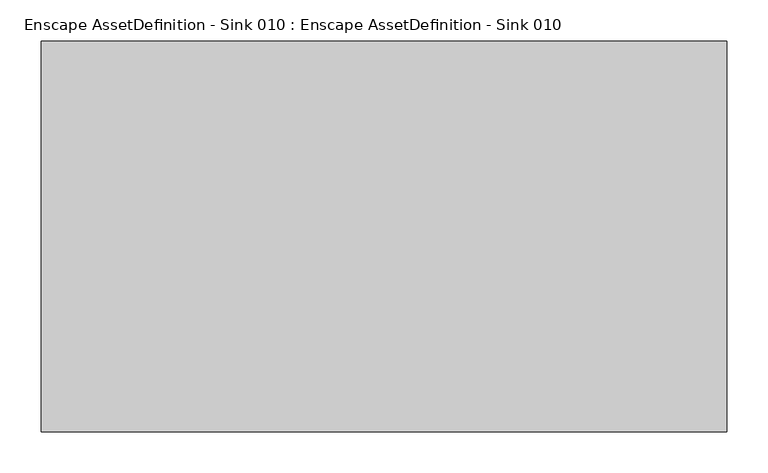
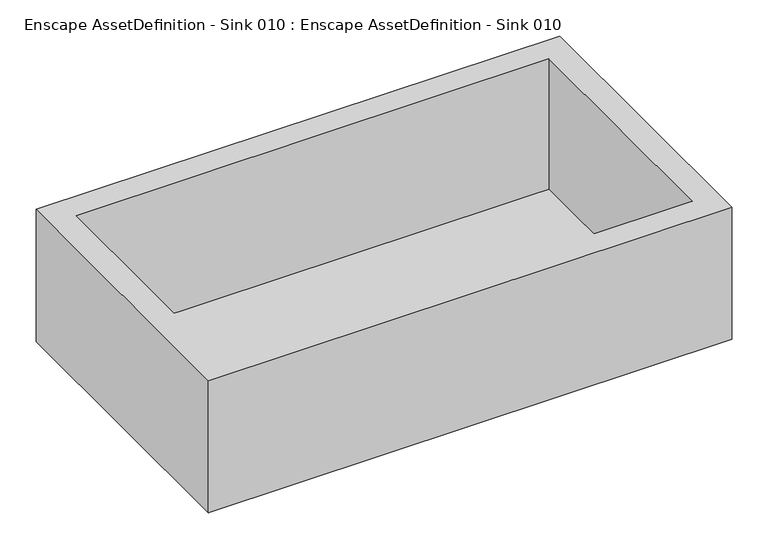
"""IFC4 building model written with IfcOpenShell, lengths in millimetres: geographic element geometry, Enscape AssetDefinition - Sink 010 : Enscape AssetDefinition - Sink 010."""

import ifcopenshell
import ifcopenshell.guid

model = None  # the IFC model being written
_history = None  # IfcOwnerHistory: only IFC2X3 demands one
_inside = {}  # id of a spatial element -> (the spatial element, [elements in it])
_under = {}  # id of a project, library or spatial element -> (it, [spatial elements below it])
_declared = {}  # id of a project -> (the project, [libraries it declares])
_typed = {}  # id of a type object -> (the type object, [elements of that type])
_made_of = {}  # id of a material, layer set ... -> (it, [elements and type objects made of it])


def new_model(schema):
    """Start an empty IFC model of exactly this schema.

    Asked for "IFC4X3", IfcOpenShell would pick the latest addendum, in which some entities
    have other attributes; the version numbers below select the first issue.
    IFC2X3 requires an IfcOwnerHistory on every rooted entity: one is made here for all.
    """
    global model, _history
    if schema == "IFC4X3":
        model = ifcopenshell.file(schema_version=(4, 3, 0, 0))
    else:
        model = ifcopenshell.file(schema=schema)
    _inside.clear()
    _under.clear()
    _declared.clear()
    _typed.clear()
    _made_of.clear()
    _history = None
    if model.schema == "IFC2X3":
        org = make("IfcOrganization", Name="unknown")
        user = make(
            "IfcPersonAndOrganization",
            ThePerson=make("IfcPerson", FamilyName="unknown"),
            TheOrganization=org,
        )
        app = make(
            "IfcApplication",
            ApplicationDeveloper=org,
            Version="unknown",
            ApplicationFullName="unknown",
            ApplicationIdentifier="unknown",
        )
        _history = make(
            "IfcOwnerHistory",
            OwningUser=user,
            OwningApplication=app,
            ChangeAction="ADDED",
            CreationDate=0,
        )
    return model


def make(cls, **values):
    """One entity of the class cls with the attributes given. An attribute that is None is left unset."""
    return model.create_entity(
        cls, **{name: value for name, value in values.items() if value is not None}
    )


def rooted(cls, **values):
    """An entity with a GlobalId (a new one), such as an element, a storey or a relation."""
    return make(cls, GlobalId=ifcopenshell.guid.new(), OwnerHistory=_history, **values)


def si_unit(unit_type, name, prefix=None):
    """IfcSIUnit, for example si_unit("LENGTHUNIT", "METRE", prefix="MILLI")."""
    return make("IfcSIUnit", UnitType=unit_type, Prefix=prefix, Name=name)


def assignment(units):
    """IfcUnitAssignment: the units of a project."""
    return None if units is None else make("IfcUnitAssignment", Units=units)


def point(xyz):
    """IfcCartesianPoint."""
    return None if xyz is None else make("IfcCartesianPoint", Coordinates=xyz)


def direction(xyz):
    """IfcDirection."""
    return None if xyz is None else make("IfcDirection", DirectionRatios=xyz)


def frame(location, z_axis=None, x_axis=None):
    """IfcAxis2Placement3D, a coordinate frame: its origin and axes. An axis left out is left unset."""
    return make(
        "IfcAxis2Placement3D",
        Location=point(location),
        Axis=direction(z_axis),
        RefDirection=direction(x_axis),
    )


def origin():
    """The frame at (0, 0, 0) with its axes left unset."""
    return frame((0.0, 0.0, 0.0))


def place(relative_to, where):
    """IfcLocalPlacement: puts the frame where relative to a parent placement (None: the world)."""
    return make(
        "IfcLocalPlacement", PlacementRelTo=relative_to, RelativePlacement=where
    )


def context(
    kind, dimensions, precision=None, world=None, true_north=None, identifier=None
):
    """IfcGeometricRepresentationContext, for example the 3D "Model" context."""
    return make(
        "IfcGeometricRepresentationContext",
        ContextIdentifier=identifier,
        ContextType=kind,
        CoordinateSpaceDimension=dimensions,
        Precision=precision,
        WorldCoordinateSystem=world,
        TrueNorth=true_north,
    )


def project(units=None, contexts=None):
    """IfcProject with its units and contexts."""
    return rooted(
        "IfcProject",
        Name="project",
        RepresentationContexts=contexts,
        UnitsInContext=assignment(units),
    )


def spatial(cls, under=None, at=None, **own):
    """A site, building, storey or space (cls), placed at a placement, below another one or the project."""
    s = rooted(cls, ObjectPlacement=at, **own)
    if under is not None:
        _under.setdefault(under.id(), (under, []))[1].append(s)
    return s


def point_list(points):
    """IfcCartesianPointList2D or 3D."""
    cls = (
        "IfcCartesianPointList2D" if len(points[0]) == 2 else "IfcCartesianPointList3D"
    )
    return make(cls, CoordList=points)


def triangles(points, corners, closed=None, point_numbers=None):
    """IfcTriangulatedFaceSet: each triangle names its three corners, points numbered from 1."""
    return make(
        "IfcTriangulatedFaceSet",
        Coordinates=point_list(points),
        Closed=closed,
        CoordIndex=corners,
        PnIndex=point_numbers,
    )


def shape(context_of_items, identifier, shape_type, items):
    """IfcShapeRepresentation: the items that make up one representation, for example the "Body"."""
    return make(
        "IfcShapeRepresentation",
        ContextOfItems=context_of_items,
        RepresentationIdentifier=identifier,
        RepresentationType=shape_type,
        Items=items,
    )


def source(mapping_origin, context_of_items, identifier, shape_type, items):
    """IfcRepresentationMap: a shape defined once, which mapped items show again and again."""
    return make(
        "IfcRepresentationMap",
        MappingOrigin=mapping_origin,
        MappedRepresentation=shape(context_of_items, identifier, shape_type, items),
    )


def transform(
    local_origin,
    x_axis=None,
    y_axis=None,
    z_axis=None,
    scale=None,
    scale2=None,
    scale3=None,
    uniform=True,
):
    """IfcCartesianTransformationOperator3D, or its non-uniform kind. x_axis, y_axis, z_axis: its Axis1, 2, 3."""
    if uniform:
        return make(
            "IfcCartesianTransformationOperator3D",
            Axis1=direction(x_axis),
            Axis2=direction(y_axis),
            LocalOrigin=point(local_origin),
            Scale=scale,
            Axis3=direction(z_axis),
        )
    return make(
        "IfcCartesianTransformationOperator3DnonUniform",
        Axis1=direction(x_axis),
        Axis2=direction(y_axis),
        LocalOrigin=point(local_origin),
        Scale=scale,
        Axis3=direction(z_axis),
        Scale2=scale2,
        Scale3=scale3,
    )


def mapped(mapping_source, mapping_target):
    """IfcMappedItem: shows the shape of a source again, moved by a transform."""
    return make(
        "IfcMappedItem", MappingSource=mapping_source, MappingTarget=mapping_target
    )


def made_of(thing, what):
    """Note that an element or type object is made of a material, layer set ...; save() writes the relation."""
    if what is not None:
        _made_of.setdefault(what.id(), (what, []))[1].append(thing)
    return thing


def element(
    cls,
    number,
    at=None,
    inside=None,
    cuts=None,
    type_object=None,
    material=None,
    context=None,
    identifier="Body",
    shape_type=None,
    held_by="IfcProductDefinitionShape",
    body=None,
    shapes=None,
    **own,
):
    """One element of the class cls, such as IfcWall. Its Tag is "e" and its number.

    at: its placement. inside: the storey or other place that contains it. cuts: it is an
    opening in that element (IfcRelVoidsElement). A single representation is given by context,
    identifier, shape_type and body (its items); several are given by shapes. held_by: the class
    of the entity that holds the representations. save() writes the other relations.
    """
    e = rooted(cls, Tag="e%d" % number, ObjectPlacement=at, **own)
    if body is not None:
        shapes = [shape(context, identifier, shape_type, body)]
    if shapes is not None:
        e.Representation = make(held_by, Representations=shapes)
    if inside is not None:
        _inside.setdefault(inside.id(), (inside, []))[1].append(e)
    if cuts is not None:
        rooted(
            "IfcRelVoidsElement", RelatingBuildingElement=cuts, RelatedOpeningElement=e
        )
    if type_object is not None:
        _typed.setdefault(type_object.id(), (type_object, []))[1].append(e)
    return made_of(e, material)


def aggregate(whole, parts):
    """IfcRelAggregates: a whole, such as a stair, and the parts it consists of."""
    return rooted("IfcRelAggregates", RelatingObject=whole, RelatedObjects=parts)


def save(model, path):
    """Write the relations noted so far, then the file.

    IfcRelAggregates (storeys below a building ...), IfcRelContainedInSpatialStructure (elements
    in a storey), IfcRelDefinesByType, IfcRelAssociatesMaterial and IfcRelDeclares: one each for
    every whole, place, type object, material and project.
    """
    for whole, parts in _under.values():
        aggregate(whole, parts)
    for where, things in _inside.values():
        rooted(
            "IfcRelContainedInSpatialStructure",
            RelatedElements=things,
            RelatingStructure=where,
        )
    for kind, things in _typed.values():
        rooted("IfcRelDefinesByType", RelatedObjects=things, RelatingType=kind)
    for what, things in _made_of.values():
        rooted("IfcRelAssociatesMaterial", RelatedObjects=things, RelatingMaterial=what)
    for by, libraries in _declared.values():
        rooted("IfcRelDeclares", RelatingContext=by, RelatedDefinitions=libraries)
    model.write(path)


def enscape_assetdefinition_sink_010_enscape_assetdefinition_5691a6b0(model_context):
    return source(origin(), model_context, "Body", "Tessellation", [
        triangles([(-417.9039974, -287.8879872, 3.3229999), (418.0979899, 188.9700062, -219.6999982), (-417.9039974, -287.8879872, -219.6999982), (-417.9039974, 188.9700062, -219.6999982), (-377.9929888, -247.9769968, 3.3229999), (418.0979899, -287.8879872, 3.3229999), (418.0979899, 188.9700062, 3.3229999), (418.0979899, -287.8879872, -219.6999982), (-377.9929888, 149.0589975, 3.3229999), (-417.9039974, 188.9700062, 3.3229999), (378.1870176, -247.9769968, 3.3229999), (378.1870176, -247.9769968, -216.6990004), (378.1870176, 149.0589975, 3.3229999), (378.1870176, 149.0589975, -216.6990004), (-377.9929888, 149.0589975, -216.6990004), (-377.9929888, -247.9769968, -216.6990004)], [[9, 15, 14], [5, 15, 9], [5, 16, 15], [15, 16, 12], [15, 12, 14], [13, 14, 12], [9, 14, 13], [11, 12, 16], [13, 12, 11], [11, 16, 5], [11, 7, 13], [13, 7, 10], [13, 10, 9], [10, 7, 2], [7, 8, 2], [11, 6, 7], [7, 6, 8], [5, 6, 11], [2, 8, 3], [6, 3, 8], [2, 3, 4], [10, 2, 4], [5, 1, 6], [9, 10, 1], [6, 1, 3], [1, 10, 4], [9, 1, 5], [1, 4, 3]]),
    ])


if __name__ == "__main__":
    model = new_model("IFC4")
    model_context = context("Model", 3, world=origin())
    ifc_project = project(units=[si_unit("LENGTHUNIT", "METRE", prefix="MILLI")], contexts=[model_context])
    site = spatial("IfcSite", under=ifc_project)
    building = spatial("IfcBuilding", under=site)
    placement = place(None, origin())
    enscape_assetdefinition_sink_010_enscape_assetdefinition_shape = enscape_assetdefinition_sink_010_enscape_assetdefinition_5691a6b0(model_context)
    element("IfcGeographicElement", 1, ObjectType="Enscape AssetDefinition - Sink 010 : Enscape AssetDefinition - Sink 010", at=placement, inside=building, context=model_context, shape_type="MappedRepresentation", body=[
        mapped(enscape_assetdefinition_sink_010_enscape_assetdefinition_shape, transform((0.0, 0.0, 0.0), x_axis=(1.0, 0.0, 0.0), y_axis=(0.0, 1.0, 0.0), z_axis=(0.0, 0.0, 1.0))),
    ])
    save(model, "model.ifc")
